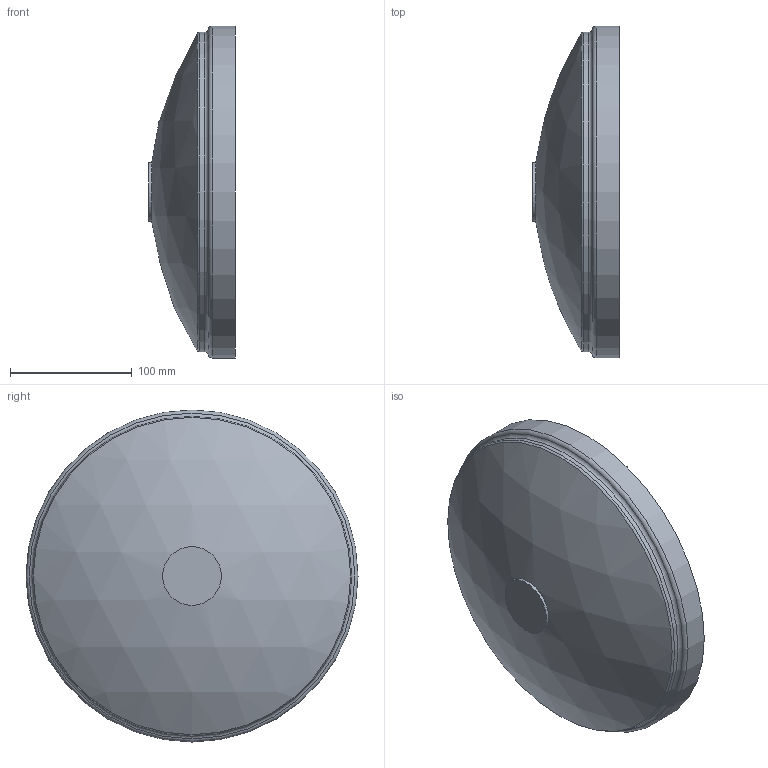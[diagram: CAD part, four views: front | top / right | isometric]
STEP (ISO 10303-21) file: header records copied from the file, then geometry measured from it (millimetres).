
FILE_DESCRIPTION(/* description */ ('VIC STRENGTHIN CAP No E496 w/Tap 1/2 inch BSPT (Concentric)','CAx-IF Rec.Pracs.---Representation and Presentation of Product Manufacturing Information (PMI)---4.0---2014-10-13'),/* implementation_level */ '2;1');
FILE_NAME(/* name */ 'C:\Users\Vjadhav\AppData\Roaming\Autodesk\ApplicationPlugins\Back Up\Victaulic_SS-StrengThin 100_Cap With Tap_No E496 (ST1)\Victaulic_SS-StrengThin 100_Cap With Tap_No E496 (ST1)_10.0x01.5 (250x40).stp',/* time_stamp */ '2020-07-07T18:47:25+05:00',/* author */ ('jheald'),/* organization */ ('Victaulic'),/* preprocessor_version */ 'ST-DEVELOPER v17.2',/* originating_system */ 'Autodesk Inventor 2019',/* authorisation */ '');
FILE_SCHEMA (('AP242_MANAGED_MODEL_BASED_3D_ENGINEERING_MIM_LF { 1 0 10303 442 1 1 4 }'));
Length unit declared in the file: inch
Products named in the file (1): E496-10.0x01.5
Bounding box: 71.12 x 273.05 x 273.05 mm (x, y, z)
Volume: 648065.7 mm3; surface area: 167616.8 mm2
Topology: 1 solids, 1 shells, 12 faces, 27 edges, 19 vertices
Faces by surface type: cylinder 4, torus 4, plane 2, sphere 2
Full cylindrical faces by diameter (mm): 48.26 x1, 254.508 x1, 262.636 x1, 273.05 x1
Entity records: 502 total; most frequent: DIRECTION 102, CARTESIAN_POINT 76, ORIENTED_EDGE 54, AXIS2_PLACEMENT_3D 49, EDGE_CURVE 27, CIRCLE 23, VERTEX_POINT 19, EDGE_LOOP 14
